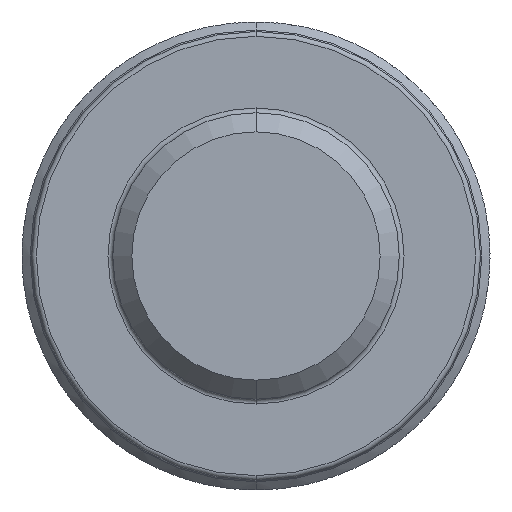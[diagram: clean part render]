
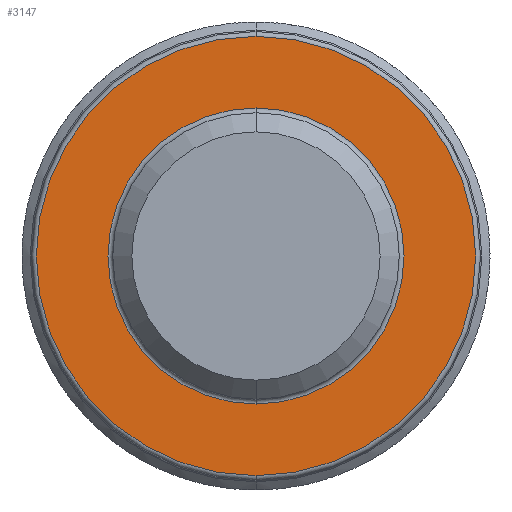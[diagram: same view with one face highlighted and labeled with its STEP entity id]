
A CAD part, front view. The second image highlights one B-rep face of the part: STEP entity #3147.
In plain terms, the highlighted planar face has unit normal (0, -1, 0).
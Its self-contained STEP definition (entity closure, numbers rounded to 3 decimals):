
#263 = EDGE_CURVE ( 'NONE', #1817, #1169, #4159, .T. ) ;
#277 = CARTESIAN_POINT ( 'NONE',  ( 0., -6., -4.6 ) ) ;
#526 = AXIS2_PLACEMENT_3D ( 'NONE', #1113, #7059, #1749 ) ;
#874 = VERTEX_POINT ( 'NONE', #2854 ) ;
#1113 = CARTESIAN_POINT ( 'NONE',  ( 0., -6., 0. ) ) ;
#1169 = VERTEX_POINT ( 'NONE', #277 ) ;
#1189 = EDGE_CURVE ( 'NONE', #1169, #1817, #2111, .T. ) ;
#1277 = CARTESIAN_POINT ( 'NONE',  ( 0., -6., 0. ) ) ;
#1294 = EDGE_CURVE ( 'NONE', #5398, #874, #7648, .T. ) ;
#1318 = EDGE_CURVE ( 'NONE', #874, #5398, #8192, .T. ) ;
#1342 = EDGE_LOOP ( 'NONE', ( #1963, #1516 ) ) ;
#1516 = ORIENTED_EDGE ( 'NONE', *, *, #1318, .T. ) ;
#1645 = CARTESIAN_POINT ( 'NONE',  ( 0., -6., -3.1 ) ) ;
#1749 = DIRECTION ( 'NONE',  ( 0., 0., -1. ) ) ;
#1797 = ORIENTED_EDGE ( 'NONE', *, *, #263, .T. ) ;
#1817 = VERTEX_POINT ( 'NONE', #4785 ) ;
#1839 = DIRECTION ( 'NONE',  ( 0., -1., 0. ) ) ;
#1963 = ORIENTED_EDGE ( 'NONE', *, *, #1294, .T. ) ;
#2111 = CIRCLE ( 'NONE', #7904, 4.6 ) ;
#2578 = DIRECTION ( 'NONE',  ( 0., 0., -1. ) ) ;
#2854 = CARTESIAN_POINT ( 'NONE',  ( 0., -6., 3.1 ) ) ;
#2965 = AXIS2_PLACEMENT_3D ( 'NONE', #3813, #1839, #2578 ) ;
#3147 = ADVANCED_FACE ( 'NONE', ( #7096, #4401 ), #3170, .T. ) ;
#3170 = PLANE ( 'NONE',  #2965 ) ;
#3570 = DIRECTION ( 'NONE',  ( 0., -1., 0. ) ) ;
#3813 = CARTESIAN_POINT ( 'NONE',  ( 3., -6., 0. ) ) ;
#3876 = AXIS2_PLACEMENT_3D ( 'NONE', #1277, #5106, #6929 ) ;
#4159 = CIRCLE ( 'NONE', #526, 4.6 ) ;
#4401 = FACE_OUTER_BOUND ( 'NONE', #5904, .T. ) ;
#4745 = DIRECTION ( 'NONE',  ( 0., 0., -1. ) ) ;
#4785 = CARTESIAN_POINT ( 'NONE',  ( 0., -6., 4.6 ) ) ;
#4951 = AXIS2_PLACEMENT_3D ( 'NONE', #6292, #8247, #5744 ) ;
#5106 = DIRECTION ( 'NONE',  ( 0., 1., 0. ) ) ;
#5380 = CARTESIAN_POINT ( 'NONE',  ( 0., -6., 0. ) ) ;
#5398 = VERTEX_POINT ( 'NONE', #1645 ) ;
#5744 = DIRECTION ( 'NONE',  ( 0., 0., -1. ) ) ;
#5904 = EDGE_LOOP ( 'NONE', ( #6190, #1797 ) ) ;
#6190 = ORIENTED_EDGE ( 'NONE', *, *, #1189, .T. ) ;
#6292 = CARTESIAN_POINT ( 'NONE',  ( 0., -6., 0. ) ) ;
#6929 = DIRECTION ( 'NONE',  ( 0., 0., -1. ) ) ;
#7059 = DIRECTION ( 'NONE',  ( 0., -1., 0. ) ) ;
#7096 = FACE_BOUND ( 'NONE', #1342, .T. ) ;
#7648 = CIRCLE ( 'NONE', #4951, 3.1 ) ;
#7904 = AXIS2_PLACEMENT_3D ( 'NONE', #5380, #3570, #4745 ) ;
#8192 = CIRCLE ( 'NONE', #3876, 3.1 ) ;
#8247 = DIRECTION ( 'NONE',  ( 0., 1., 0. ) ) ;
